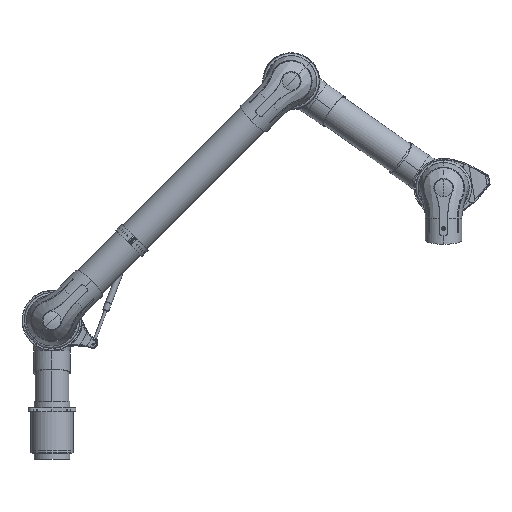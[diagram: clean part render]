
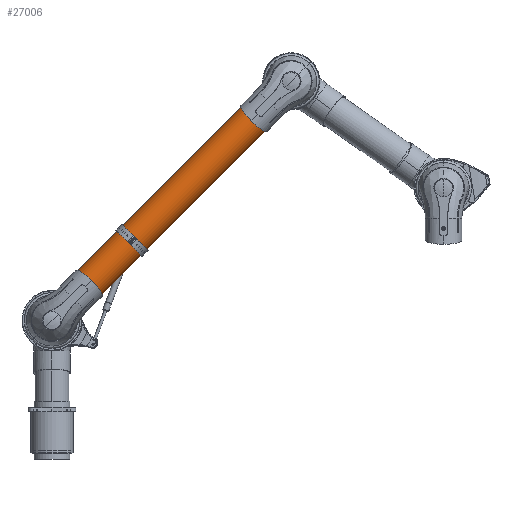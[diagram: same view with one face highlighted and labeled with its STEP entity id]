
A CAD part, top view. The second image highlights one B-rep face of the part: STEP entity #27006.
In plain terms, the highlighted cylindrical face has radius 50 mm (diameter 100 mm), a partial arc.
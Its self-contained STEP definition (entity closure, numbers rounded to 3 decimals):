
#26926=CARTESIAN_POINT('',(0.,0.,0.));
#26927=DIRECTION('',(1.,0.,0.));
#26928=DIRECTION('',(0.,1.,0.));
#26929=AXIS2_PLACEMENT_3D('',#26926,#26927,#26928);
#26934=DIRECTION('',(-1.,0.,0.));
#26935=VECTOR('',#26934,820.);
#26936=CARTESIAN_POINT('',(0.,50.,0.));
#26937=LINE('',#26936,#26935);
#26941=DIRECTION('',(-1.,0.,0.));
#26942=VECTOR('',#26941,820.);
#26943=CARTESIAN_POINT('',(0.,-50.,0.));
#26944=LINE('',#26943,#26942);
#26964=CARTESIAN_POINT('',(-820.,0.,0.));
#26965=DIRECTION('',(1.,0.,0.));
#26966=DIRECTION('',(0.,1.,0.));
#26967=AXIS2_PLACEMENT_3D('',#26964,#26965,#26966);
#26972=CARTESIAN_POINT('',(0.,50.,0.));
#26973=CARTESIAN_POINT('',(-820.,50.,0.));
#26974=VERTEX_POINT('',#26972);
#26975=VERTEX_POINT('',#26973);
#26976=CARTESIAN_POINT('',(0.,-50.,0.));
#26977=CARTESIAN_POINT('',(-820.,-50.,0.));
#26978=VERTEX_POINT('',#26976);
#26979=VERTEX_POINT('',#26977);
#26992=CARTESIAN_POINT('',(-861.,0.,0.));
#26993=DIRECTION('',(1.,0.,0.));
#26994=DIRECTION('',(0.,-1.,0.));
#26995=AXIS2_PLACEMENT_3D('',#26992,#26993,#26994);
#26996=CYLINDRICAL_SURFACE('',#26995,50.);
#26998=ORIENTED_EDGE('',*,*,#26997,.F.);
#26999=ORIENTED_EDGE('',*,*,#26985,.T.);
#27001=ORIENTED_EDGE('',*,*,#27000,.T.);
#27003=ORIENTED_EDGE('',*,*,#27002,.F.);
#27004=EDGE_LOOP('',(#26998,#26999,#27001,#27003));
#27005=FACE_OUTER_BOUND('',#27004,.F.);
#26930=CIRCLE('',#26929,50.);
#26968=CIRCLE('',#26967,50.);
#26985=EDGE_CURVE('',#26974,#26978,#26930,.T.);
#26997=EDGE_CURVE('',#26974,#26975,#26937,.T.);
#27000=EDGE_CURVE('',#26978,#26979,#26944,.T.);
#27002=EDGE_CURVE('',#26975,#26979,#26968,.T.);
#27006=ADVANCED_FACE('',(#27005),#26996,.T.);
